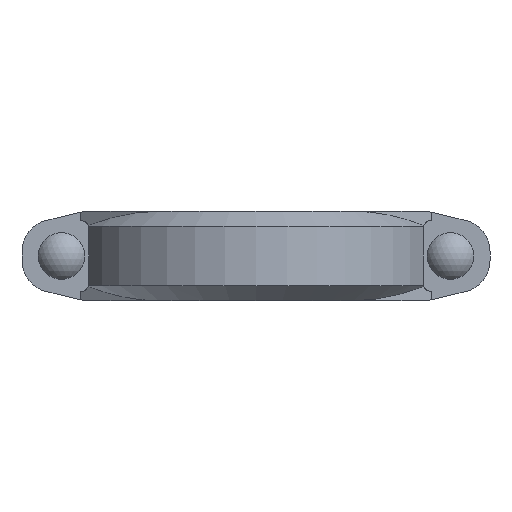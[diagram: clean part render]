
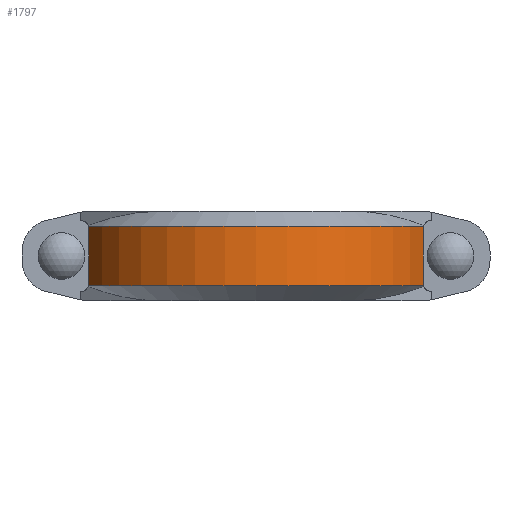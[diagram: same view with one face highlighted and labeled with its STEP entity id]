
A CAD part, front view. The second image highlights one B-rep face of the part: STEP entity #1797.
In plain terms, the highlighted cylindrical face has radius 104.902 mm (diameter 209.804 mm), a partial arc.
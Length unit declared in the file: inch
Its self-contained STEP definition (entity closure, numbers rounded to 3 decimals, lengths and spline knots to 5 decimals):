
#66=B_SPLINE_CURVE_WITH_KNOTS('',3,(#2790,#2791,#2792,#2793,#2794,#2795,
#2796,#2797),.UNSPECIFIED.,.F.,.F.,(4,2,2,4),(1.45079,1.48274,
1.5388,1.59486),.UNSPECIFIED.);
#69=B_SPLINE_CURVE_WITH_KNOTS('',3,(#2821,#2822,#2823,#2824,#2825,#2826,
#2827,#2828),.UNSPECIFIED.,.F.,.F.,(4,2,2,4),(1.59486,1.65092,
1.70699,1.73894),.UNSPECIFIED.);
#71=B_SPLINE_CURVE_WITH_KNOTS('',3,(#2863,#2864,#2865,#2866,#2867,#2868,
#2869,#2870),.UNSPECIFIED.,.F.,.F.,(4,2,2,4),(1.45079,1.48274,
1.5388,1.59486),.UNSPECIFIED.);
#72=B_SPLINE_CURVE_WITH_KNOTS('',3,(#2873,#2874,#2875,#2876,#2877,#2878,
#2879,#2880),.UNSPECIFIED.,.F.,.F.,(4,2,2,4),(1.59486,1.65092,
1.70699,1.73894),.UNSPECIFIED.);
#186=FACE_OUTER_BOUND('',#280,.T.);
#280=EDGE_LOOP('',(#1285,#1286,#1287,#1288,#1289,#1290,#1291,#1292));
#392=LINE('',#2806,#545);
#400=LINE('',#2872,#553);
#545=VECTOR('',#2203,0.3937);
#553=VECTOR('',#2231,0.3937);
#681=CIRCLE('',#1938,4.13);
#683=CIRCLE('',#1941,4.13);
#783=VERTEX_POINT('',#2787);
#784=VERTEX_POINT('',#2789);
#785=VERTEX_POINT('',#2805);
#789=VERTEX_POINT('',#2814);
#793=VERTEX_POINT('',#2841);
#797=VERTEX_POINT('',#2860);
#798=VERTEX_POINT('',#2862);
#799=VERTEX_POINT('',#2871);
#971=EDGE_CURVE('',#784,#783,#66,.T.);
#973=EDGE_CURVE('',#783,#785,#392,.T.);
#978=EDGE_CURVE('',#785,#789,#69,.T.);
#985=EDGE_CURVE('',#784,#793,#681,.T.);
#990=EDGE_CURVE('',#789,#797,#683,.T.);
#991=EDGE_CURVE('',#797,#798,#71,.T.);
#992=EDGE_CURVE('',#798,#799,#400,.T.);
#993=EDGE_CURVE('',#799,#793,#72,.T.);
#1285=ORIENTED_EDGE('',*,*,#971,.T.);
#1286=ORIENTED_EDGE('',*,*,#973,.T.);
#1287=ORIENTED_EDGE('',*,*,#978,.T.);
#1288=ORIENTED_EDGE('',*,*,#990,.T.);
#1289=ORIENTED_EDGE('',*,*,#991,.T.);
#1290=ORIENTED_EDGE('',*,*,#992,.T.);
#1291=ORIENTED_EDGE('',*,*,#993,.T.);
#1292=ORIENTED_EDGE('',*,*,#985,.F.);
#1656=CYLINDRICAL_SURFACE('',#1940,4.13);
#1797=ADVANCED_FACE('',(#186),#1656,.T.);
#1938=AXIS2_PLACEMENT_3D('',#2842,#2223,#2224);
#1940=AXIS2_PLACEMENT_3D('',#2859,#2227,#2228);
#1941=AXIS2_PLACEMENT_3D('',#2861,#2229,#2230);
#2203=DIRECTION('',(0.,0.,1.));
#2223=DIRECTION('center_axis',(0.,0.,-1.));
#2224=DIRECTION('ref_axis',(0.,-1.,0.));
#2227=DIRECTION('center_axis',(0.,0.,-1.));
#2228=DIRECTION('ref_axis',(0.,-1.,0.));
#2229=DIRECTION('center_axis',(0.,0.,-1.));
#2230=DIRECTION('ref_axis',(0.,-1.,0.));
#2231=DIRECTION('',(0.,0.,-1.));
#2787=CARTESIAN_POINT('',(3.87,-1.44222,-0.63389));
#2789=CARTESIAN_POINT('',(3.87772,-1.42133,-0.6875));
#2790=CARTESIAN_POINT('Ctrl Pts',(3.87772,-1.42133,-0.6875));
#2791=CARTESIAN_POINT('Ctrl Pts',(3.87675,-1.42399,-0.68418));
#2792=CARTESIAN_POINT('Ctrl Pts',(3.87584,-1.42645,-0.68078));
#2793=CARTESIAN_POINT('Ctrl Pts',(3.8736,-1.43253,-0.67122));
#2794=CARTESIAN_POINT('Ctrl Pts',(3.87227,-1.43612,-0.66412));
#2795=CARTESIAN_POINT('Ctrl Pts',(3.87046,-1.44098,-0.64913));
#2796=CARTESIAN_POINT('Ctrl Pts',(3.87,-1.44222,-0.64124));
#2797=CARTESIAN_POINT('Ctrl Pts',(3.87,-1.44222,-0.63389));
#2805=CARTESIAN_POINT('',(3.87,-1.44222,0.63389));
#2806=CARTESIAN_POINT('',(3.87,-1.44222,0.));
#2814=CARTESIAN_POINT('',(3.87772,-1.42133,0.6875));
#2821=CARTESIAN_POINT('Ctrl Pts',(3.87,-1.44222,0.63389));
#2822=CARTESIAN_POINT('Ctrl Pts',(3.87,-1.44222,0.64124));
#2823=CARTESIAN_POINT('Ctrl Pts',(3.87046,-1.44098,0.64913));
#2824=CARTESIAN_POINT('Ctrl Pts',(3.87227,-1.43612,0.66412));
#2825=CARTESIAN_POINT('Ctrl Pts',(3.8736,-1.43253,0.67122));
#2826=CARTESIAN_POINT('Ctrl Pts',(3.87584,-1.42645,0.68078));
#2827=CARTESIAN_POINT('Ctrl Pts',(3.87675,-1.42399,0.68418));
#2828=CARTESIAN_POINT('Ctrl Pts',(3.87772,-1.42133,0.6875));
#2841=CARTESIAN_POINT('',(-3.87772,-1.42133,-0.6875));
#2842=CARTESIAN_POINT('Origin',(0.,0.,-0.6875));
#2859=CARTESIAN_POINT('Origin',(0.,0.,0.));
#2860=CARTESIAN_POINT('',(-3.87772,-1.42133,0.6875));
#2861=CARTESIAN_POINT('Origin',(0.,0.,0.6875));
#2862=CARTESIAN_POINT('',(-3.87,-1.44222,0.63389));
#2863=CARTESIAN_POINT('Ctrl Pts',(-3.87772,-1.42133,0.6875));
#2864=CARTESIAN_POINT('Ctrl Pts',(-3.87675,-1.42399,0.68418));
#2865=CARTESIAN_POINT('Ctrl Pts',(-3.87584,-1.42645,0.68078));
#2866=CARTESIAN_POINT('Ctrl Pts',(-3.8736,-1.43253,0.67122));
#2867=CARTESIAN_POINT('Ctrl Pts',(-3.87227,-1.43612,0.66412));
#2868=CARTESIAN_POINT('Ctrl Pts',(-3.87046,-1.44098,0.64913));
#2869=CARTESIAN_POINT('Ctrl Pts',(-3.87,-1.44222,0.64124));
#2870=CARTESIAN_POINT('Ctrl Pts',(-3.87,-1.44222,0.63389));
#2871=CARTESIAN_POINT('',(-3.87,-1.44222,-0.63389));
#2872=CARTESIAN_POINT('',(-3.87,-1.44222,0.));
#2873=CARTESIAN_POINT('Ctrl Pts',(-3.87,-1.44222,-0.63389));
#2874=CARTESIAN_POINT('Ctrl Pts',(-3.87,-1.44222,-0.64124));
#2875=CARTESIAN_POINT('Ctrl Pts',(-3.87046,-1.44098,-0.64913));
#2876=CARTESIAN_POINT('Ctrl Pts',(-3.87227,-1.43612,-0.66412));
#2877=CARTESIAN_POINT('Ctrl Pts',(-3.8736,-1.43253,-0.67122));
#2878=CARTESIAN_POINT('Ctrl Pts',(-3.87584,-1.42645,-0.68078));
#2879=CARTESIAN_POINT('Ctrl Pts',(-3.87675,-1.42399,-0.68418));
#2880=CARTESIAN_POINT('Ctrl Pts',(-3.87772,-1.42133,-0.6875));
